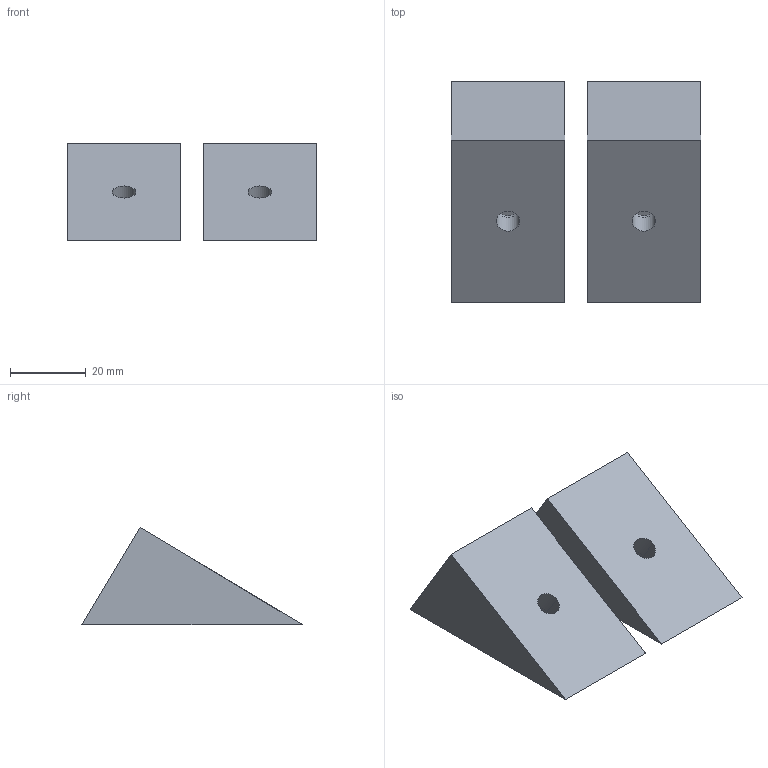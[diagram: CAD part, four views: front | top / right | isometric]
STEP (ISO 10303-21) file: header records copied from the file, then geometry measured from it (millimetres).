
FILE_DESCRIPTION(/* description */ (''),/* implementation_level */ '2;1');
FILE_NAME(/* name */ 'Winkel für großes und kleines Regal 2 Stück',/* time_stamp */ '2026-07-21T16:10:05+02:00',/* author */ (''),/* organization */ (''),/* preprocessor_version */ 'ST-DEVELOPER v19.2',/* originating_system */ 'Rhino 8.33',/* authorisation */ '');
FILE_SCHEMA (('CONFIG_CONTROL_DESIGN'));
Length unit declared in the file: millimetre
Products named in the file (1): Document
Bounding box: 66 x 58.31 x 25.72 mm (x, y, z)
Volume: 44516.9 mm3; surface area: 11610.2 mm2
Topology: 2 solids, 2 shells, 20 faces, 38 edges, 24 vertices
Faces by surface type: plane 12, cylinder 8
Entity records: 572 total; most frequent: CARTESIAN_POINT 134, ORIENTED_EDGE 76, DIRECTION 48, EDGE_CURVE 38, AXIS2_PLACEMENT_3D 34, VERTEX_POINT 24, EDGE_LOOP 22, B_SPLINE_CURVE_WITH_KNOTS 22
